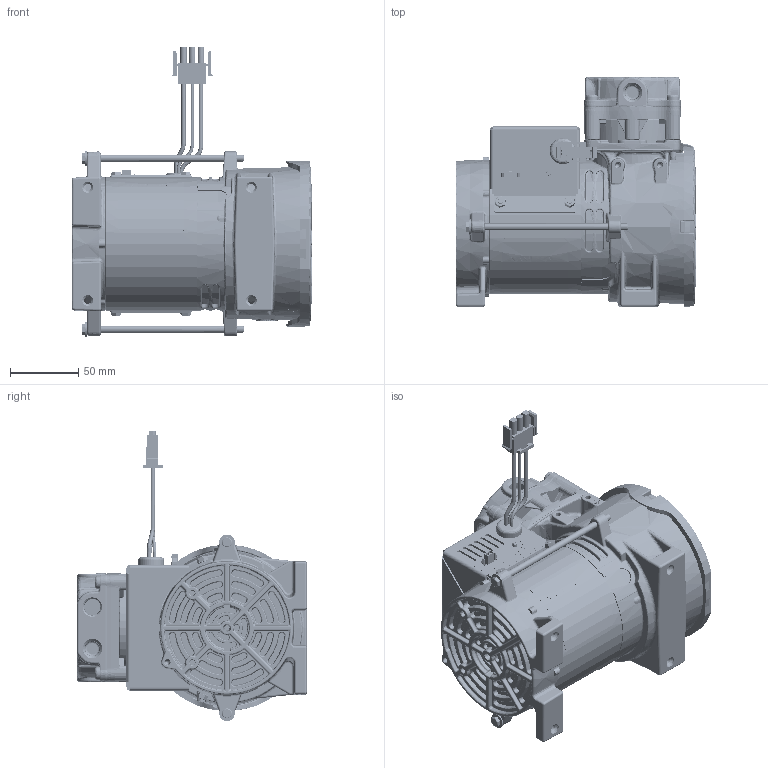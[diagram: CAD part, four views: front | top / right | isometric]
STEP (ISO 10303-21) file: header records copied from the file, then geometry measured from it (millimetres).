
FILE_DESCRIPTION (( 'STEP AP214' ), '1' );
FILE_NAME ('380Z1C3224W_515077_No Reva.STEP', '2023-07-27T15:04:36', ( '' ), ( '' ), 'SwSTEP 2.0', 'SolidWorks 2021', '' );
FILE_SCHEMA (( 'AUTOMOTIVE_DESIGN' ));
Products named in the file (1): 380Z1C3224W_515077_No Reva
Bounding box: 176.38 x 169.28 x 212.98 mm (x, y, z)
Volume: 1949249 mm3; surface area: 178459.3 mm2
Topology: 1 solids, 2 shells, 6832 faces, 17563 edges, 10734 vertices
Faces by surface type: bspline 3208, plane 2044, cylinder 914, cone 665, torus 1
Entity records: 370306 total; most frequent: CARTESIAN_POINT 233807, ORIENTED_EDGE 34524, DIRECTION 19199, EDGE_CURVE 17262, VERTEX_POINT 10734, B_SPLINE_CURVE_WITH_KNOTS 8148, EDGE_LOOP 7192, AXIS2_PLACEMENT_3D 6835
